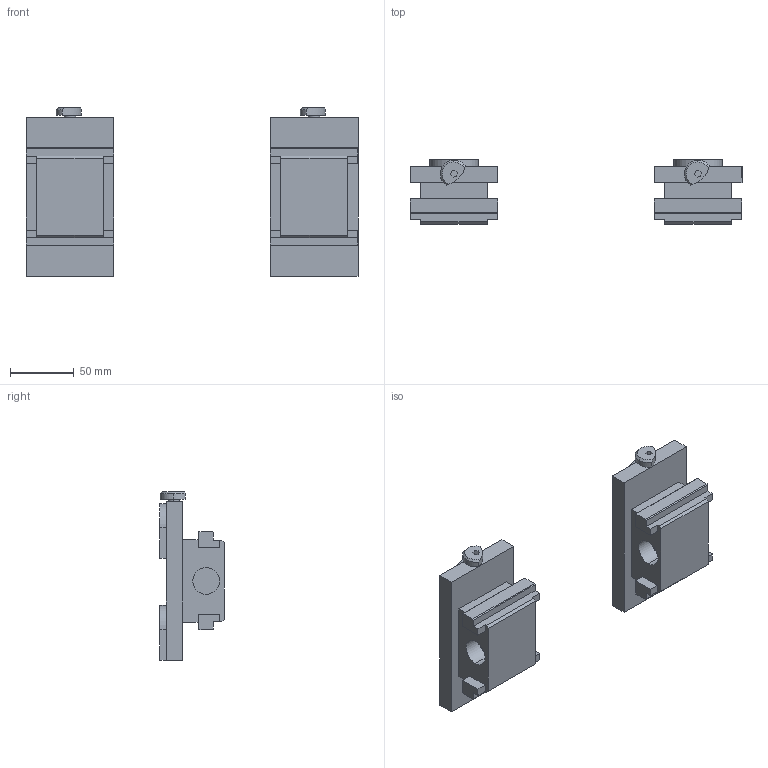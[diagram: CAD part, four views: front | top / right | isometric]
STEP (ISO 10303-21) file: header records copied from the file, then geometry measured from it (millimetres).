
FILE_DESCRIPTION (( 'STEP AP203' ), '1' );
FILE_NAME ('44251.STEP', '2016-11-29T08:47:07', ( '' ), ( '' ), 'SwSTEP 2.0', 'SolidWorks 2015', '' );
FILE_SCHEMA (( 'CONFIG_CONTROL_DESIGN' ));
Length unit declared in the file: millimetre
Products named in the file (2): 44251-01-02; 44251
Assembly tree (2 placements, depth 2):
  44251
    44251-01-02  x2
Bounding box: 260.6 x 50.5 x 132.3 mm (x, y, z)
Volume: 482350 mm3; surface area: 74430.3 mm2
Topology: 2 solids, 2 shells, 136 faces, 352 edges, 234 vertices
Faces by surface type: plane 110, cylinder 22, cone 4
Entity records: 2286 total; most frequent: CARTESIAN_POINT 372, ORIENTED_EDGE 352, DIRECTION 344, EDGE_CURVE 176, VECTOR 150, LINE 150, VERTEX_POINT 117, AXIS2_PLACEMENT_3D 97
